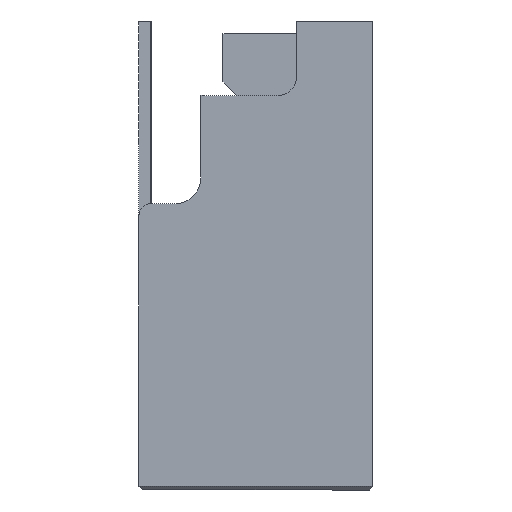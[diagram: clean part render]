
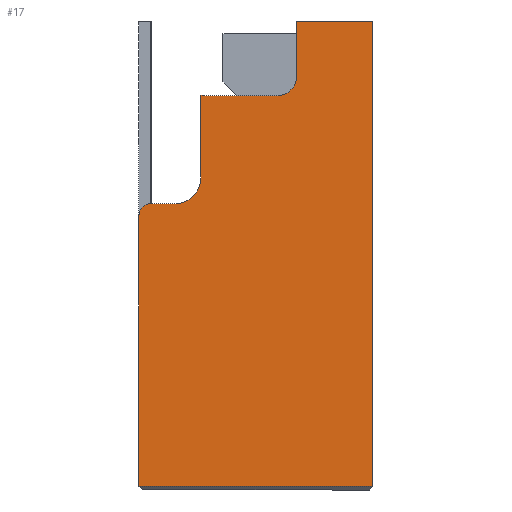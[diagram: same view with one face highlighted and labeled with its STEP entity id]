
A CAD part, left-side view. The second image highlights one B-rep face of the part: STEP entity #17.
In plain terms, the highlighted planar face has unit normal (-1, 0, 0).
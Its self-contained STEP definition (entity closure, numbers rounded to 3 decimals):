
#17 = ADVANCED_FACE('',(#18),#120,.T.);
#18 = FACE_BOUND('',#19,.F.);
#19 = EDGE_LOOP('',(#20,#30,#39,#47,#56,#64,#73,#81,#90,#98,#106,#114));
#20 = ORIENTED_EDGE('',*,*,#21,.F.);
#21 = EDGE_CURVE('',#22,#24,#26,.T.);
#22 = VERTEX_POINT('',#23);
#23 = CARTESIAN_POINT('',(36.1,147.5,45.7));
#24 = VERTEX_POINT('',#25);
#25 = CARTESIAN_POINT('',(36.1,147.5,0.6));
#26 = LINE('',#27,#28);
#27 = CARTESIAN_POINT('',(36.1,147.5,78.));
#28 = VECTOR('',#29,1.);
#29 = DIRECTION('',(0.,0.,-1.));
#30 = ORIENTED_EDGE('',*,*,#31,.T.);
#31 = EDGE_CURVE('',#22,#32,#34,.T.);
#32 = VERTEX_POINT('',#33);
#33 = CARTESIAN_POINT('',(36.1,145.5,47.7));
#34 = CIRCLE('',#35,2.);
#35 = AXIS2_PLACEMENT_3D('',#36,#37,#38);
#36 = CARTESIAN_POINT('',(36.1,145.5,45.7));
#37 = DIRECTION('',(1.,0.,-0.));
#38 = DIRECTION('',(0.,0.,1.));
#39 = ORIENTED_EDGE('',*,*,#40,.F.);
#40 = EDGE_CURVE('',#41,#32,#43,.T.);
#41 = VERTEX_POINT('',#42);
#42 = CARTESIAN_POINT('',(36.1,141.5,47.7));
#43 = LINE('',#44,#45);
#44 = CARTESIAN_POINT('',(36.1,131.25,47.7));
#45 = VECTOR('',#46,1.);
#46 = DIRECTION('',(-0.,1.,0.));
#47 = ORIENTED_EDGE('',*,*,#48,.T.);
#48 = EDGE_CURVE('',#41,#49,#51,.T.);
#49 = VERTEX_POINT('',#50);
#50 = CARTESIAN_POINT('',(36.1,137.2,52.));
#51 = CIRCLE('',#52,4.3);
#52 = AXIS2_PLACEMENT_3D('',#53,#54,#55);
#53 = CARTESIAN_POINT('',(36.1,141.5,52.));
#54 = DIRECTION('',(-1.,-0.,0.));
#55 = DIRECTION('',(0.,-1.,0.));
#56 = ORIENTED_EDGE('',*,*,#57,.T.);
#57 = EDGE_CURVE('',#49,#58,#60,.T.);
#58 = VERTEX_POINT('',#59);
#59 = CARTESIAN_POINT('',(36.1,137.2,65.775));
#60 = LINE('',#61,#62);
#61 = CARTESIAN_POINT('',(36.1,137.2,65.));
#62 = VECTOR('',#63,1.);
#63 = DIRECTION('',(-0.,0.,1.));
#64 = ORIENTED_EDGE('',*,*,#65,.T.);
#65 = EDGE_CURVE('',#58,#66,#68,.T.);
#66 = VERTEX_POINT('',#67);
#67 = CARTESIAN_POINT('',(36.1,136.5,65.7));
#68 = CIRCLE('',#69,3.3);
#69 = AXIS2_PLACEMENT_3D('',#70,#71,#72);
#70 = CARTESIAN_POINT('',(36.1,136.5,69.));
#71 = DIRECTION('',(-1.,0.,-0.));
#72 = DIRECTION('',(0.,0.,-1.));
#73 = ORIENTED_EDGE('',*,*,#74,.T.);
#74 = EDGE_CURVE('',#66,#75,#77,.T.);
#75 = VERTEX_POINT('',#76);
#76 = CARTESIAN_POINT('',(36.1,124.5,65.7));
#77 = LINE('',#78,#79);
#78 = CARTESIAN_POINT('',(36.1,142.,65.7));
#79 = VECTOR('',#80,1.);
#80 = DIRECTION('',(0.,-1.,0.));
#81 = ORIENTED_EDGE('',*,*,#82,.T.);
#82 = EDGE_CURVE('',#75,#83,#85,.T.);
#83 = VERTEX_POINT('',#84);
#84 = CARTESIAN_POINT('',(36.1,121.2,69.));
#85 = CIRCLE('',#86,3.3);
#86 = AXIS2_PLACEMENT_3D('',#87,#88,#89);
#87 = CARTESIAN_POINT('',(36.1,124.5,69.));
#88 = DIRECTION('',(-1.,-0.,0.));
#89 = DIRECTION('',(0.,-1.,0.));
#90 = ORIENTED_EDGE('',*,*,#91,.T.);
#91 = EDGE_CURVE('',#83,#92,#94,.T.);
#92 = VERTEX_POINT('',#93);
#93 = CARTESIAN_POINT('',(36.1,121.2,78.));
#94 = LINE('',#95,#96);
#95 = CARTESIAN_POINT('',(36.1,121.2,58.65));
#96 = VECTOR('',#97,1.);
#97 = DIRECTION('',(-0.,0.,1.));
#98 = ORIENTED_EDGE('',*,*,#99,.T.);
#99 = EDGE_CURVE('',#92,#100,#102,.T.);
#100 = VERTEX_POINT('',#101);
#101 = CARTESIAN_POINT('',(36.1,108.5,78.));
#102 = LINE('',#103,#104);
#103 = CARTESIAN_POINT('',(36.1,147.5,78.));
#104 = VECTOR('',#105,1.);
#105 = DIRECTION('',(0.,-1.,0.));
#106 = ORIENTED_EDGE('',*,*,#107,.T.);
#107 = EDGE_CURVE('',#100,#108,#110,.T.);
#108 = VERTEX_POINT('',#109);
#109 = CARTESIAN_POINT('',(36.1,108.5,0.6));
#110 = LINE('',#111,#112);
#111 = CARTESIAN_POINT('',(36.1,108.5,78.));
#112 = VECTOR('',#113,1.);
#113 = DIRECTION('',(0.,0.,-1.));
#114 = ORIENTED_EDGE('',*,*,#115,.F.);
#115 = EDGE_CURVE('',#24,#108,#116,.T.);
#116 = LINE('',#117,#118);
#117 = CARTESIAN_POINT('',(36.1,147.5,0.6));
#118 = VECTOR('',#119,1.);
#119 = DIRECTION('',(0.,-1.,0.));
#120 = PLANE('',#121);
#121 = AXIS2_PLACEMENT_3D('',#122,#123,#124);
#122 = CARTESIAN_POINT('',(36.1,125.775,36.571));
#123 = DIRECTION('',(-1.,0.,0.));
#124 = DIRECTION('',(0.,0.,1.));
